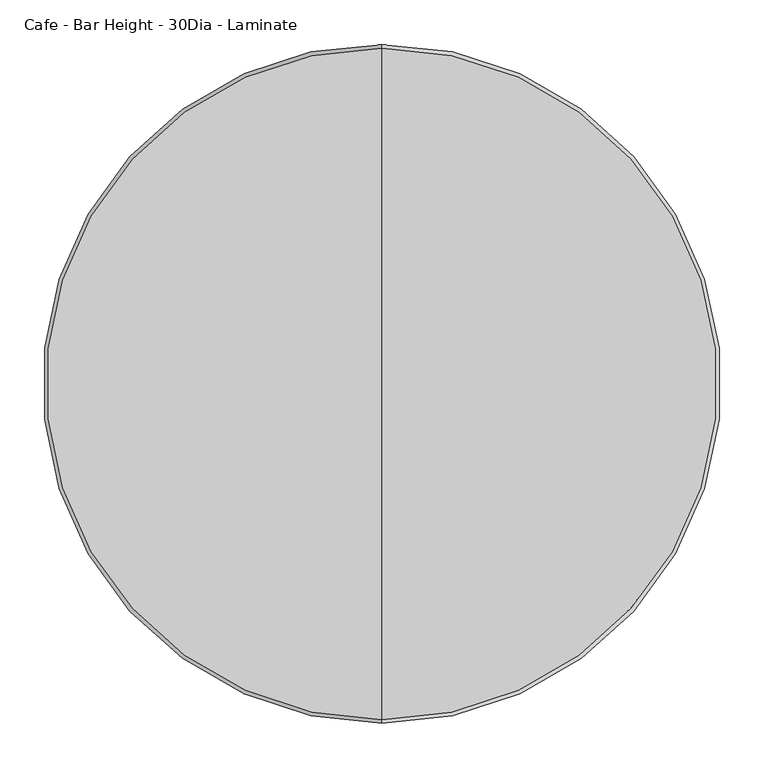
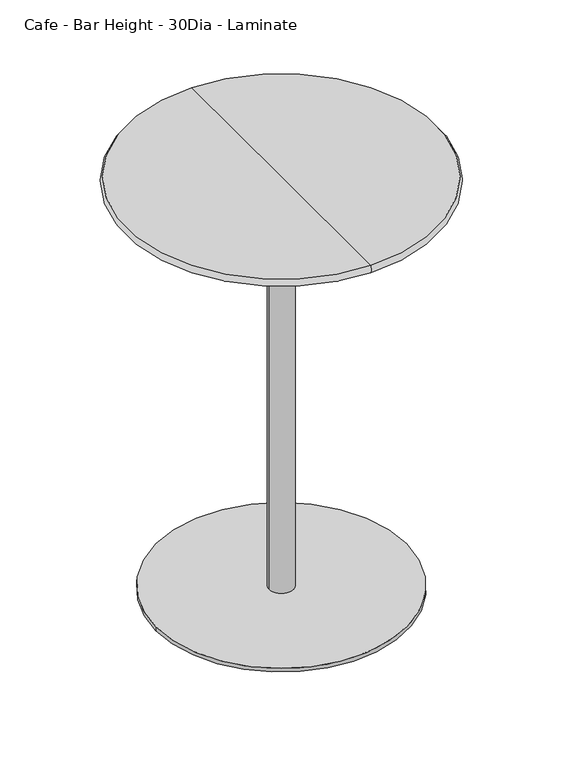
"""IFC4 building model written with IfcOpenShell, lengths in millimetres: furniture geometry, Steelcase Coalesse - Enea - Table - Single Base : Cafe - Bar Height - 30Dia - Laminate."""

from ifc_helpers import new_model, si_unit, point, frame, frame_2d, origin, origin_with_axes, place, context, project, spatial, circle_curve, ellipse_curve, trimmed, segment, composite_curve, outline, extrude, source, transform, mapped, element, save
from ifc_brep_helpers import plane_surface, revolved_surface, advanced_brep


def cafe_bar_height_30dia_laminate_3aafa5af(model_context):
    return source(origin(), model_context, "Body", "SolidModel", [
        extrude(outline(composite_curve([segment(trimmed(circle_curve(frame_2d((537.718, -284.0746893)), 25.4), [point((512.318, -284.0746893))], [point((563.118, -284.0746893))], False, "CARTESIAN"), True, "CONTINUOUS"), segment(trimmed(circle_curve(frame_2d((537.718, -284.0746893)), 25.4), [point((563.118, -284.0746893))], [point((512.318, -284.0746893))], False, "CARTESIAN"), True, "CONTINUOUS")], self_intersect=False)), origin_with_axes(), (0.0, 0.0, 1.0), 6.35),
        extrude(outline(composite_curve([segment(trimmed(circle_curve(frame_2d((791.3613107, -537.3772238)), 25.4), [point((765.9613107, -537.3772238))], [point((816.7613107, -537.3772238))], False, "CARTESIAN"), True, "CONTINUOUS"), segment(trimmed(circle_curve(frame_2d((791.3613107, -537.3772238)), 25.4), [point((816.7613107, -537.3772238))], [point((765.9613107, -537.3772238))], False, "CARTESIAN"), True, "CONTINUOUS")], self_intersect=False)), origin_with_axes(), (0.0, 0.0, 1.0), 6.35),
        extrude(outline(composite_curve([segment(trimmed(circle_curve(frame_2d((284.0746893, -537.3772238)), 25.4), [point((258.6746893, -537.3772238))], [point((309.4746893, -537.3772238))], False, "CARTESIAN"), True, "CONTINUOUS"), segment(trimmed(circle_curve(frame_2d((284.0746893, -537.3772238)), 25.4), [point((309.4746893, -537.3772238))], [point((258.6746893, -537.3772238))], False, "CARTESIAN"), True, "CONTINUOUS")], self_intersect=False)), origin_with_axes(), (0.0, 0.0, 1.0), 6.35),
        extrude(outline(composite_curve([segment(trimmed(circle_curve(frame_2d((537.718, -790.6797584)), 25.4), [point((512.318, -790.6797584))], [point((563.118, -790.6797584))], False, "CARTESIAN"), True, "CONTINUOUS"), segment(trimmed(circle_curve(frame_2d((537.718, -790.6797584)), 25.4), [point((563.118, -790.6797584))], [point((512.318, -790.6797584))], False, "CARTESIAN"), True, "CONTINUOUS")], self_intersect=False)), origin_with_axes(), (0.0, 0.0, 1.0), 6.35),
        advanced_brep(
        [(537.718, -914.4075871, 1066.8), (537.718, -161.0284129, 1066.8), (537.718, -537.718, 1066.8), (537.718, -914.4075871, 1047.75), (537.718, -161.0284129, 1047.75), (537.718, -537.718, 1047.75)],
        [
            (0, 1, circle_curve(frame((537.718, -537.718, 1066.8), z_axis=(0.0, 0.0, 1.0), x_axis=(0.0, 1.0, 0.0)), 376.6895871)),
            (1, 2),
            (2, 0),
            (1, 0, circle_curve(frame((537.718, -537.718, 1066.8), z_axis=(0.0, 0.0, 1.0), x_axis=(0.0, 1.0, 0.0)), 376.6895871)),
            (3, 4, circle_curve(frame((537.718, -537.718, 1047.75), z_axis=(0.0, 0.0, 1.0), x_axis=(0.0, 1.0, 0.0)), 376.6895871)),
            (4, 1, circle_curve(frame((537.718, -169.3968446, 1057.275), z_axis=(1.0, 0.0, 0.0), x_axis=(0.0, -1.0, 0.0)), 12.6789697)),
            (0, 3, circle_curve(frame((537.718, -906.0391554, 1057.275), z_axis=(1.0, 0.0, 0.0), x_axis=(0.0, 1.0, 0.0)), 12.6789697)),
            (4, 3, circle_curve(frame((537.718, -537.718, 1047.75), z_axis=(0.0, 0.0, 1.0), x_axis=(0.0, 1.0, 0.0)), 376.6895871)),
            (5, 4),
            (3, 5),
        ],
        [
            plane_surface(frame((537.718, -537.718, 1066.8), z_axis=(0.0, 0.0, 1.0), x_axis=(0.0, 1.0, 0.0))),
            revolved_surface(trimmed(ellipse_curve(frame((537.718, -169.3968446, 1057.275), z_axis=(-1.0, 0.0, 0.0), x_axis=(0.0, -1.0, 0.0)), 12.6789697, 12.6789697), [point((537.718, -161.0284129, 1066.8))], [point((537.718, -161.0284129, 1047.75))], True, "CARTESIAN"), (537.718, -537.718, 1108.3678651), (0.0, 0.0, -1.0)),
            plane_surface(frame((537.718, -537.718, 1047.75), z_axis=(0.0, 0.0, -1.0), x_axis=(0.0, 1.0, 0.0))),
        ],
        [
            (0, [[1, 2, 3]]),
            (0, [[4, -3, -2]]),
            (1, [[5, 6, -1, 7]]),
            (1, [[8, -7, -4, -6]]),
            (2, [[9, -5, 10]]),
            (2, [[-10, -8, -9]]),
        ],
    ),
        extrude(outline(composite_curve([segment(trimmed(circle_curve(frame_2d((537.718, -537.718)), 304.8), [point((842.518, -537.718))], [point((232.918, -537.718))], False, "CARTESIAN"), True, "CONTINUOUS"), segment(trimmed(circle_curve(frame_2d((537.718, -537.718)), 304.8), [point((232.918, -537.718))], [point((842.518, -537.718))], False, "CARTESIAN"), True, "CONTINUOUS")], self_intersect=False)), frame((0.0, 0.0, 6.35), z_axis=(0.0, 0.0, 1.0), x_axis=(1.0, 0.0, 0.0)), (0.0, 0.0, 1.0), 9.525),
        extrude(outline(composite_curve([segment(trimmed(circle_curve(frame_2d((537.7182907, -537.7179273)), 30.0214725), [point((567.7397632, -537.7179273))], [point((507.6968182, -537.7179273))], False, "CARTESIAN"), True, "CONTINUOUS"), segment(trimmed(circle_curve(frame_2d((537.7182907, -537.7179273)), 30.0214725), [point((507.6968182, -537.7179273))], [point((567.7397632, -537.7179273))], False, "CARTESIAN"), True, "CONTINUOUS")], self_intersect=False)), frame((0.0, 0.0, 15.875), z_axis=(0.0, 0.0, 1.0), x_axis=(1.0, 0.0, 0.0)), (0.0, 0.0, 1.0), 1031.875),
    ])


if __name__ == "__main__":
    model = new_model("IFC4")
    model_context = context("Model", 3, world=origin())
    ifc_project = project(units=[si_unit("LENGTHUNIT", "METRE", prefix="MILLI")], contexts=[model_context])
    site = spatial("IfcSite", under=ifc_project)
    building = spatial("IfcBuilding", under=site)
    placement = place(None, origin())
    cafe_bar_height_30dia_laminate_shape = cafe_bar_height_30dia_laminate_3aafa5af(model_context)
    element("IfcFurniture", 1, ObjectType="Steelcase Coalesse - Enea - Table - Single Base : Cafe - Bar Height - 30Dia - Laminate", at=placement, inside=building, context=model_context, shape_type="MappedRepresentation", body=[
        mapped(cafe_bar_height_30dia_laminate_shape, transform((0.0, 0.0, 0.0), x_axis=(1.0, 0.0, 0.0), y_axis=(0.0, 1.0, 0.0), z_axis=(0.0, 0.0, 1.0))),
    ])
    save(model, "model.ifc")
